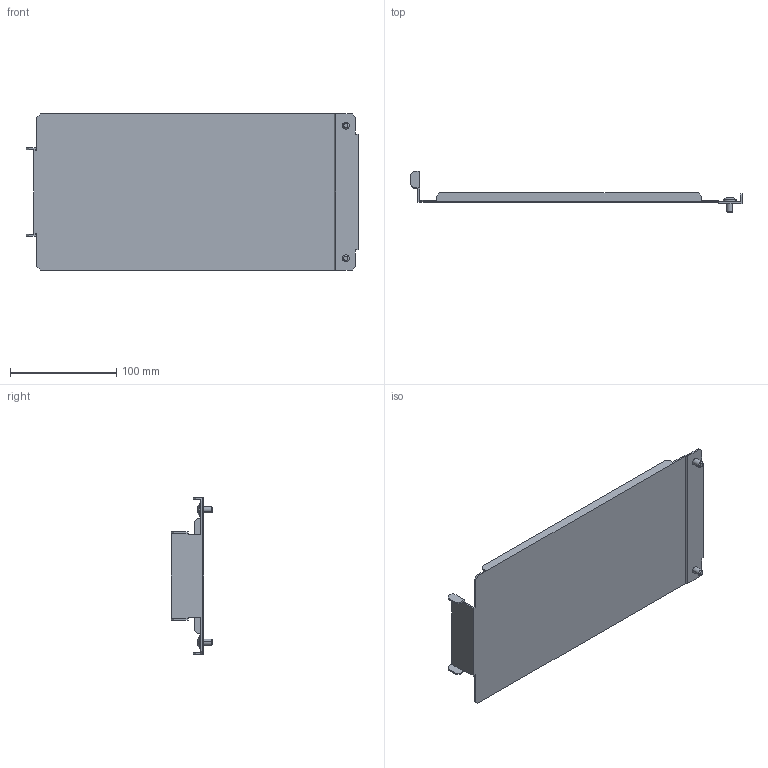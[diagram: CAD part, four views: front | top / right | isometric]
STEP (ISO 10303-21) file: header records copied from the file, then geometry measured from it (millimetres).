
FILE_DESCRIPTION (( 'STEP AP214' ), '1' );
FILE_NAME ('FO-00-PVHC-020 Ïåðåãîðîäêà àïïàðàòíîãî îòñåêà áîêîâàÿ âåðòèêàëüíàÿ ñïëîøíàÿ âûñîòà 200 ìì.STEP', '2025-08-18T06:38:25', ( '' ), ( '' ), 'SwSTEP 2.0', 'SolidWorks 2023', '' );
FILE_SCHEMA (( 'AUTOMOTIVE_DESIGN' ));
Length unit declared in the file: millimetre
Products named in the file (1): FO-00-PVHC-020 Перегородка аппаратного отсека боковая вертикальная сплошная высота 200 мм
Bounding box: 312.84 x 38.98 x 147 mm (x, y, z)
Volume: 78265.5 mm3; surface area: 105056.9 mm2
Topology: 1 solids, 1 shells, 130 faces, 360 edges, 236 vertices
Faces by surface type: plane 76, cylinder 42, torus 4, cone 4, sphere 4
Entity records: 4207 total; most frequent: CARTESIAN_POINT 861, ORIENTED_EDGE 720, DIRECTION 658, EDGE_CURVE 360, LINE 256, VECTOR 256, VERTEX_POINT 236, AXIS2_PLACEMENT_3D 201
